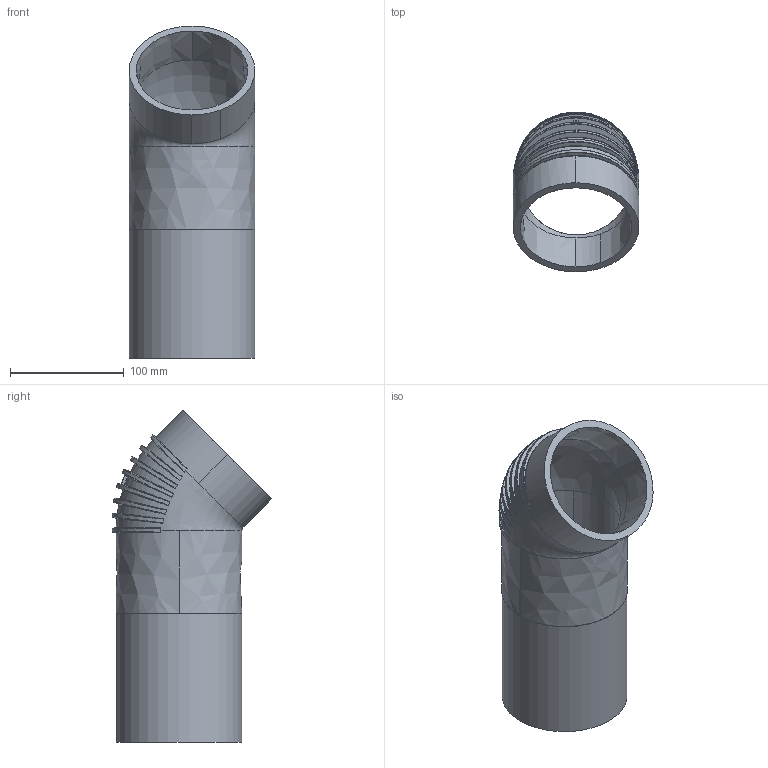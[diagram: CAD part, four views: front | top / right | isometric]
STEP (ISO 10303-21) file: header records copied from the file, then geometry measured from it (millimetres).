
FILE_DESCRIPTION(/* description */ (''),/* implementation_level */ '2;1');
FILE_NAME(/* name */ 'C:\Planerdaten\Export PLA\310.014.14.1\stp\310014.stp',/* time_stamp */ '2019-10-04T07:32:56+02:00',/* author */ ('JANAN'),/* organization */ (''),/* preprocessor_version */ 'ST-DEVELOPER v16.13',/* originating_system */ 'Autodesk Inventor 2018',/* authorisation */ '');
FILE_SCHEMA (('AUTOMOTIVE_DESIGN { 1 0 10303 214 3 1 1 }'));
Length unit declared in the file: millimetre
Products named in the file (1): Bogen PE-S2 45G d110 L21/6 geschw
Bounding box: 110.6 x 140.28 x 291.46 mm (x, y, z)
Volume: 553242.8 mm3; surface area: 185596.9 mm2
Topology: 1 solids, 1 shells, 162 faces, 458 edges, 298 vertices
Faces by surface type: bspline 95, torus 22, cone 16, cylinder 13, plane 12, sphere 4
Full cylindrical faces by diameter (mm): 98 x1, 110 x1
Entity records: 28781 total; most frequent: CARTESIAN_POINT 25258, ORIENTED_EDGE 870, EDGE_CURVE 435, DIRECTION 398, VERTEX_POINT 286, B_SPLINE_CURVE_WITH_KNOTS 281, AXIS2_PLACEMENT_3D 177, EDGE_LOOP 173
